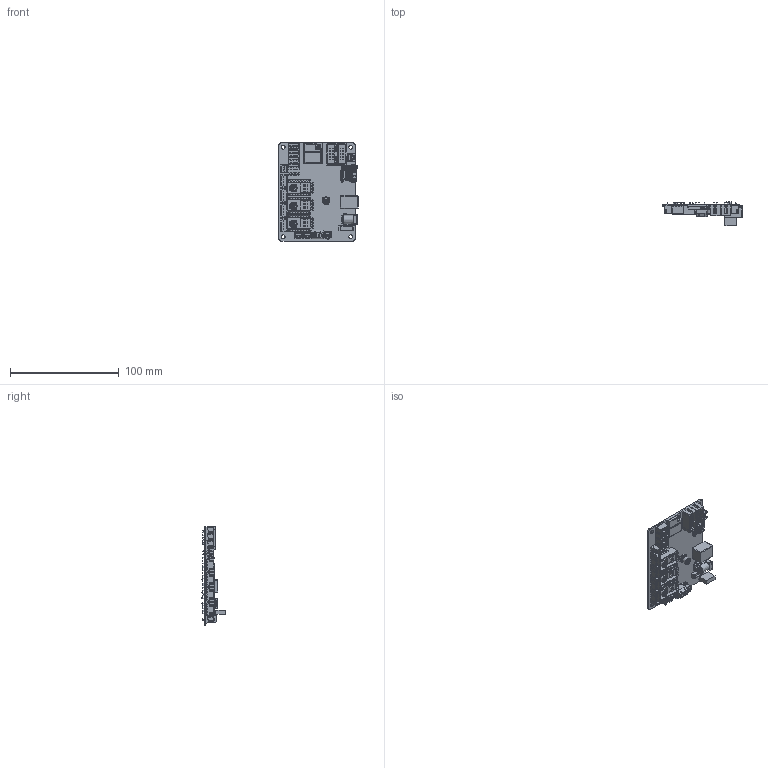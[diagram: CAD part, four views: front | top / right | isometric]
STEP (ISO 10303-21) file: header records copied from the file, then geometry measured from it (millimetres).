
FILE_DESCRIPTION(/* description */ ('STEP AP242 Edition 2','CAx-IF Rec.Pracs.---Representation and Presentation of Product Manufacturing Information (PMI)---4.0---2014-10-13','CAx-IF Rec.Pracs.---3D Tessellated Geometry---0.4---2014-09-14','2;1','CAx-IF Rec.Pracs.---User Defined Attributes---1.5---2016-08-15'),/* implementation_level */ '2;1');
FILE_NAME(/* name */ 'Final Build - MKS_DLC32_V2_PCB',/* time_stamp */ '2026-08-31T23:26:25Z',/* author */ (''),/* organization */ (''),/* preprocessor_version */ 'ST-DEVELOPER v20',/* originating_system */ 'ONSHAPE BY PTC INC, 1.220',/* authorisation */ ' ');
FILE_SCHEMA (('AP242_MANAGED_MODEL_BASED_3D_ENGINEERING_MIM_LF { 1 0 10303 442 3 1 4 }'));
Products named in the file (1): MKS_DLC32_V2_PCB
Bounding box: 304.68 x 61.67 x 90 mm (x, y, z)
Volume: 23266.6 mm3; surface area: 31126.8 mm2
Topology: 1 solids, 3 shells, 6161 faces, 16494 edges, 10658 vertices
Faces by surface type: plane 4988, cylinder 902, bspline 179, torus 69, sphere 17, cone 6
Full cylindrical faces by diameter (mm): 0.29 x3, 0.3 x1, 0.349 x1, 0.4 x1, 0.45 x1, 0.54 x2, 0.6 x19, 0.64 x1, 0.7 x30, 0.8 x4, 0.94 x1, 1.22 x1, 1.4 x2, 1.8 x1, 1.95 x1, 2 x15, 2.5 x2, 3.4 x2, 3.5 x4, 6.3 x10, 6.45 x1
Entity records: 206127 total; most frequent: CARTESIAN_POINT 44942, ORIENTED_EDGE 32420, DIRECTION 28719, EDGE_CURVE 16210, LINE 13315, VECTOR 13315, VERTEX_POINT 10534, AXIS2_PLACEMENT_3D 7702
